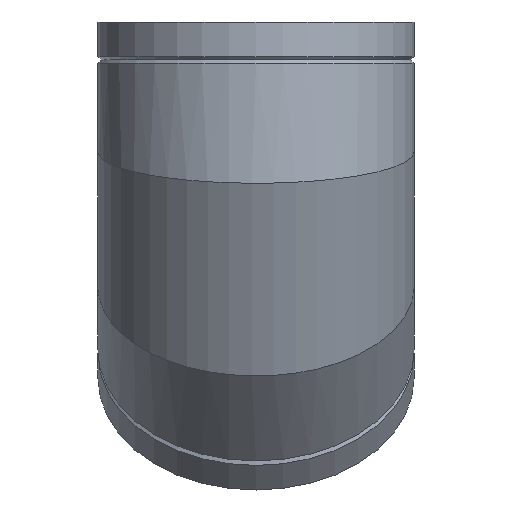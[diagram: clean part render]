
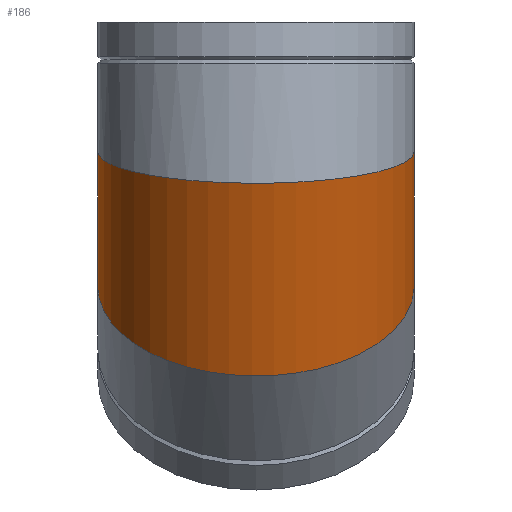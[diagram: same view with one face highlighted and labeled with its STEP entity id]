
A CAD part, front view. The second image highlights one B-rep face of the part: STEP entity #186.
In plain terms, the highlighted cylindrical face has radius 125 mm (diameter 250 mm), a full revolution.
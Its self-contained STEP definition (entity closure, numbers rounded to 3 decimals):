
#15=ELLIPSE($,#196,127.449,125.);
#16=ELLIPSE($,#197,127.449,125.);
#17=ELLIPSE($,#204,127.449,125.);
#18=ELLIPSE($,#205,127.449,125.);
#30=CYLINDRICAL_SURFACE($,#221,125.);
#46=FACE_BOUND($,#86,.T.);
#58=FACE_OUTER_BOUND($,#85,.T.);
#85=EDGE_LOOP($,(#165,#166));
#86=EDGE_LOOP($,(#167,#168));
#100=VERTEX_POINT($,#298);
#101=VERTEX_POINT($,#299);
#105=VERTEX_POINT($,#311);
#106=VERTEX_POINT($,#312);
#118=EDGE_CURVE($,#100,#101,#15,.T.);
#119=EDGE_CURVE($,#101,#100,#16,.T.);
#123=EDGE_CURVE($,#105,#106,#17,.T.);
#124=EDGE_CURVE($,#106,#105,#18,.T.);
#165=ORIENTED_EDGE($,*,*,#119,.F.);
#166=ORIENTED_EDGE($,*,*,#118,.F.);
#167=ORIENTED_EDGE($,*,*,#123,.T.);
#168=ORIENTED_EDGE($,*,*,#124,.T.);
#186=ADVANCED_FACE($,(#58,#46),#30,.T.);
#196=AXIS2_PLACEMENT_3D($,#300,#236,#237);
#197=AXIS2_PLACEMENT_3D($,#301,#238,#239);
#204=AXIS2_PLACEMENT_3D($,#313,#252,#253);
#205=AXIS2_PLACEMENT_3D($,#314,#254,#255);
#221=AXIS2_PLACEMENT_3D($,#338,#286,#287);
#236=DIRECTION('center_axis',(0.,0.556,-0.831));
#237=DIRECTION('ref_axis',(0.,-0.831,-0.556));
#238=DIRECTION('center_axis',(0.,0.556,-0.831));
#239=DIRECTION('ref_axis',(0.,-0.831,-0.556));
#252=DIRECTION('center_axis',(0.,0.195,-0.981));
#253=DIRECTION('ref_axis',(0.,-0.981,-0.195));
#254=DIRECTION('center_axis',(0.,0.195,-0.981));
#255=DIRECTION('ref_axis',(0.,-0.981,-0.195));
#286=DIRECTION('center_axis',(0.,-0.383,0.924));
#287=DIRECTION('ref_axis',(-1.,0.,0.));
#298=CARTESIAN_POINT('',(125.,44.113,-44.113));
#299=CARTESIAN_POINT('',(-125.,44.113,-44.113));
#300=CARTESIAN_POINT('Origin',(0.,44.113,-44.113));
#301=CARTESIAN_POINT('Origin',(0.,44.113,-44.113));
#311=CARTESIAN_POINT('',(-125.,0.,62.385));
#312=CARTESIAN_POINT('',(125.,0.,62.385));
#313=CARTESIAN_POINT('Origin',(0.,0.,62.385));
#314=CARTESIAN_POINT('Origin',(0.,0.,62.385));
#338=CARTESIAN_POINT('Origin',(0.,22.056,9.136));
